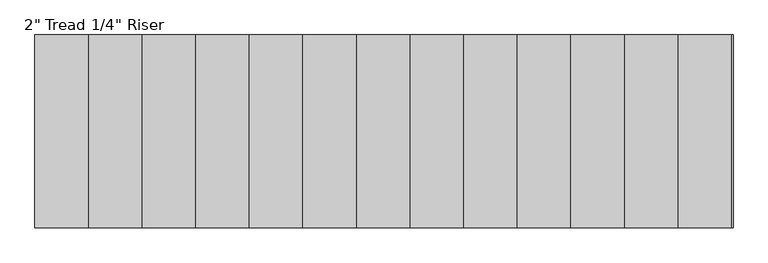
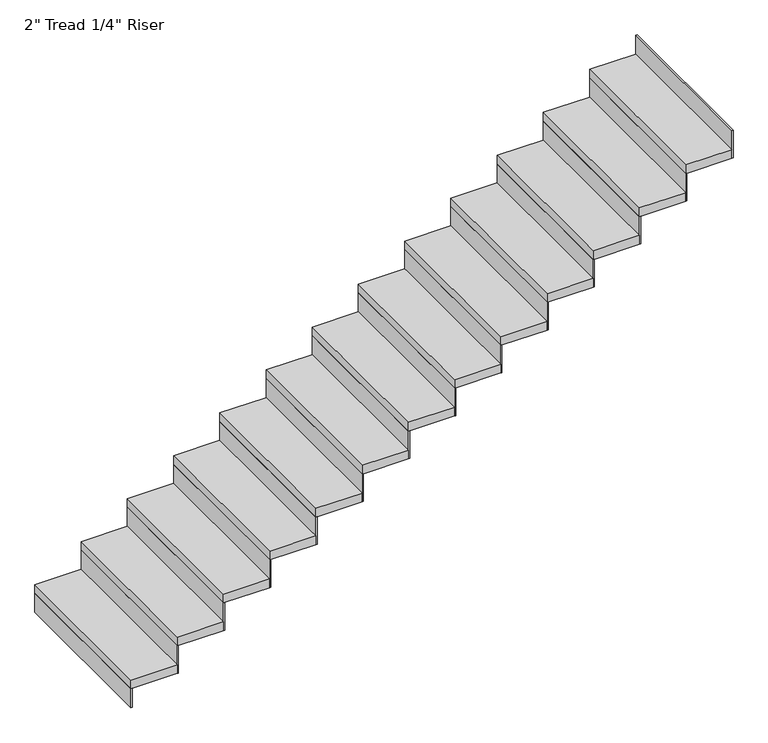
"""IFC4 building model written with IfcOpenShell, lengths in millimetres: stair flight geometry."""

import ifcopenshell
import ifcopenshell.guid

model = None  # the IFC model being written
_history = None  # IfcOwnerHistory: only IFC2X3 demands one
_inside = {}  # id of a spatial element -> (the spatial element, [elements in it])
_under = {}  # id of a project, library or spatial element -> (it, [spatial elements below it])
_declared = {}  # id of a project -> (the project, [libraries it declares])
_typed = {}  # id of a type object -> (the type object, [elements of that type])
_made_of = {}  # id of a material, layer set ... -> (it, [elements and type objects made of it])


def new_model(schema):
    """Start an empty IFC model of exactly this schema.

    Asked for "IFC4X3", IfcOpenShell would pick the latest addendum, in which some entities
    have other attributes; the version numbers below select the first issue.
    IFC2X3 requires an IfcOwnerHistory on every rooted entity: one is made here for all.
    """
    global model, _history
    if schema == "IFC4X3":
        model = ifcopenshell.file(schema_version=(4, 3, 0, 0))
    else:
        model = ifcopenshell.file(schema=schema)
    _inside.clear()
    _under.clear()
    _declared.clear()
    _typed.clear()
    _made_of.clear()
    _history = None
    if model.schema == "IFC2X3":
        org = make("IfcOrganization", Name="unknown")
        user = make(
            "IfcPersonAndOrganization",
            ThePerson=make("IfcPerson", FamilyName="unknown"),
            TheOrganization=org,
        )
        app = make(
            "IfcApplication",
            ApplicationDeveloper=org,
            Version="unknown",
            ApplicationFullName="unknown",
            ApplicationIdentifier="unknown",
        )
        _history = make(
            "IfcOwnerHistory",
            OwningUser=user,
            OwningApplication=app,
            ChangeAction="ADDED",
            CreationDate=0,
        )
    return model


def make(cls, **values):
    """One entity of the class cls with the attributes given. An attribute that is None is left unset."""
    return model.create_entity(
        cls, **{name: value for name, value in values.items() if value is not None}
    )


def rooted(cls, **values):
    """An entity with a GlobalId (a new one), such as an element, a storey or a relation."""
    return make(cls, GlobalId=ifcopenshell.guid.new(), OwnerHistory=_history, **values)


def si_unit(unit_type, name, prefix=None):
    """IfcSIUnit, for example si_unit("LENGTHUNIT", "METRE", prefix="MILLI")."""
    return make("IfcSIUnit", UnitType=unit_type, Prefix=prefix, Name=name)


def assignment(units):
    """IfcUnitAssignment: the units of a project."""
    return None if units is None else make("IfcUnitAssignment", Units=units)


def point(xyz):
    """IfcCartesianPoint."""
    return None if xyz is None else make("IfcCartesianPoint", Coordinates=xyz)


def direction(xyz):
    """IfcDirection."""
    return None if xyz is None else make("IfcDirection", DirectionRatios=xyz)


def frame(location, z_axis=None, x_axis=None):
    """IfcAxis2Placement3D, a coordinate frame: its origin and axes. An axis left out is left unset."""
    return make(
        "IfcAxis2Placement3D",
        Location=point(location),
        Axis=direction(z_axis),
        RefDirection=direction(x_axis),
    )


def origin():
    """The frame at (0, 0, 0) with its axes left unset."""
    return frame((0.0, 0.0, 0.0))


def origin_with_axes():
    """The frame at (0, 0, 0) with the z axis (0, 0, 1) and the x axis (1, 0, 0) written out."""
    return frame((0.0, 0.0, 0.0), z_axis=(0.0, 0.0, 1.0), x_axis=(1.0, 0.0, 0.0))


def place(relative_to, where):
    """IfcLocalPlacement: puts the frame where relative to a parent placement (None: the world)."""
    return make(
        "IfcLocalPlacement", PlacementRelTo=relative_to, RelativePlacement=where
    )


def context(
    kind, dimensions, precision=None, world=None, true_north=None, identifier=None
):
    """IfcGeometricRepresentationContext, for example the 3D "Model" context."""
    return make(
        "IfcGeometricRepresentationContext",
        ContextIdentifier=identifier,
        ContextType=kind,
        CoordinateSpaceDimension=dimensions,
        Precision=precision,
        WorldCoordinateSystem=world,
        TrueNorth=true_north,
    )


def project(units=None, contexts=None):
    """IfcProject with its units and contexts."""
    return rooted(
        "IfcProject",
        Name="project",
        RepresentationContexts=contexts,
        UnitsInContext=assignment(units),
    )


def spatial(cls, under=None, at=None, **own):
    """A site, building, storey or space (cls), placed at a placement, below another one or the project."""
    s = rooted(cls, ObjectPlacement=at, **own)
    if under is not None:
        _under.setdefault(under.id(), (under, []))[1].append(s)
    return s


def polyline(points):
    """IfcPolyline through the points."""
    return make("IfcPolyline", Points=[point(p) for p in points])


def outline(outer, holes=None, kind="AREA"):
    """IfcArbitraryClosedProfileDef: a profile drawn as a closed curve; with holes, ...WithVoids."""
    if holes is None:
        return make("IfcArbitraryClosedProfileDef", ProfileType=kind, OuterCurve=outer)
    return make(
        "IfcArbitraryProfileDefWithVoids",
        ProfileType=kind,
        OuterCurve=outer,
        InnerCurves=holes,
    )


def extrude(swept, where, along, depth):
    """IfcExtrudedAreaSolid: the profile swept, set in the frame where, extruded along a direction by depth."""
    return make(
        "IfcExtrudedAreaSolid",
        SweptArea=swept,
        Position=where,
        ExtrudedDirection=direction(along),
        Depth=depth,
    )


def shape(context_of_items, identifier, shape_type, items):
    """IfcShapeRepresentation: the items that make up one representation, for example the "Body"."""
    return make(
        "IfcShapeRepresentation",
        ContextOfItems=context_of_items,
        RepresentationIdentifier=identifier,
        RepresentationType=shape_type,
        Items=items,
    )


def source(mapping_origin, context_of_items, identifier, shape_type, items):
    """IfcRepresentationMap: a shape defined once, which mapped items show again and again."""
    return make(
        "IfcRepresentationMap",
        MappingOrigin=mapping_origin,
        MappedRepresentation=shape(context_of_items, identifier, shape_type, items),
    )


def transform(
    local_origin,
    x_axis=None,
    y_axis=None,
    z_axis=None,
    scale=None,
    scale2=None,
    scale3=None,
    uniform=True,
):
    """IfcCartesianTransformationOperator3D, or its non-uniform kind. x_axis, y_axis, z_axis: its Axis1, 2, 3."""
    if uniform:
        return make(
            "IfcCartesianTransformationOperator3D",
            Axis1=direction(x_axis),
            Axis2=direction(y_axis),
            LocalOrigin=point(local_origin),
            Scale=scale,
            Axis3=direction(z_axis),
        )
    return make(
        "IfcCartesianTransformationOperator3DnonUniform",
        Axis1=direction(x_axis),
        Axis2=direction(y_axis),
        LocalOrigin=point(local_origin),
        Scale=scale,
        Axis3=direction(z_axis),
        Scale2=scale2,
        Scale3=scale3,
    )


def mapped(mapping_source, mapping_target):
    """IfcMappedItem: shows the shape of a source again, moved by a transform."""
    return make(
        "IfcMappedItem", MappingSource=mapping_source, MappingTarget=mapping_target
    )


def made_of(thing, what):
    """Note that an element or type object is made of a material, layer set ...; save() writes the relation."""
    if what is not None:
        _made_of.setdefault(what.id(), (what, []))[1].append(thing)
    return thing


def element(
    cls,
    number,
    at=None,
    inside=None,
    cuts=None,
    type_object=None,
    material=None,
    context=None,
    identifier="Body",
    shape_type=None,
    held_by="IfcProductDefinitionShape",
    body=None,
    shapes=None,
    **own,
):
    """One element of the class cls, such as IfcWall. Its Tag is "e" and its number.

    at: its placement. inside: the storey or other place that contains it. cuts: it is an
    opening in that element (IfcRelVoidsElement). A single representation is given by context,
    identifier, shape_type and body (its items); several are given by shapes. held_by: the class
    of the entity that holds the representations. save() writes the other relations.
    """
    e = rooted(cls, Tag="e%d" % number, ObjectPlacement=at, **own)
    if body is not None:
        shapes = [shape(context, identifier, shape_type, body)]
    if shapes is not None:
        e.Representation = make(held_by, Representations=shapes)
    if inside is not None:
        _inside.setdefault(inside.id(), (inside, []))[1].append(e)
    if cuts is not None:
        rooted(
            "IfcRelVoidsElement", RelatingBuildingElement=cuts, RelatedOpeningElement=e
        )
    if type_object is not None:
        _typed.setdefault(type_object.id(), (type_object, []))[1].append(e)
    return made_of(e, material)


def aggregate(whole, parts):
    """IfcRelAggregates: a whole, such as a stair, and the parts it consists of."""
    return rooted("IfcRelAggregates", RelatingObject=whole, RelatedObjects=parts)


def save(model, path):
    """Write the relations noted so far, then the file.

    IfcRelAggregates (storeys below a building ...), IfcRelContainedInSpatialStructure (elements
    in a storey), IfcRelDefinesByType, IfcRelAssociatesMaterial and IfcRelDeclares: one each for
    every whole, place, type object, material and project.
    """
    for whole, parts in _under.values():
        aggregate(whole, parts)
    for where, things in _inside.values():
        rooted(
            "IfcRelContainedInSpatialStructure",
            RelatedElements=things,
            RelatingStructure=where,
        )
    for kind, things in _typed.values():
        rooted("IfcRelDefinesByType", RelatedObjects=things, RelatingType=kind)
    for what, things in _made_of.values():
        rooted("IfcRelAssociatesMaterial", RelatedObjects=things, RelatingMaterial=what)
    for by, libraries in _declared.values():
        rooted("IfcRelDeclares", RelatingContext=by, RelatedDefinitions=libraries)
    model.write(path)


def stair_flight_8c7c9975(model_context):
    return source(origin(), model_context, "Body", "SweptSolid", [
        extrude(outline(polyline([(135333.2884933, -35524.5173894), (135326.9384933, -35524.5173894), (135326.9384933, -34610.1173894), (135333.2884933, -34610.1173894), (135333.2884933, -35524.5173894)])), origin_with_axes(), (0.0, 0.0, 1.0), 109.6210526),
        extrude(outline(polyline([(135580.9384933, -34610.1173894), (135580.9384933, -35524.5173894), (135326.9384933, -35524.5173894), (135326.9384933, -34610.1173894), (135580.9384933, -34610.1173894)])), frame((0.0, 0.0, 109.6210526), z_axis=(0.0, 0.0, 1.0), x_axis=(1.0, 0.0, 0.0)), (0.0, 0.0, 1.0), 50.8),
        extrude(outline(polyline([(135587.2884933, -35524.5173894), (135580.9384933, -35524.5173894), (135580.9384933, -34610.1173894), (135587.2884933, -34610.1173894), (135587.2884933, -35524.5173894)])), frame((0.0, 0.0, 109.6210526), z_axis=(0.0, 0.0, 1.0), x_axis=(1.0, 0.0, 0.0)), (0.0, 0.0, 1.0), 160.4210526),
        extrude(outline(polyline([(135834.9384933, -34610.1173894), (135834.9384933, -35524.5173894), (135580.9384933, -35524.5173894), (135580.9384933, -34610.1173894), (135834.9384933, -34610.1173894)])), frame((0.0, 0.0, 270.0421053), z_axis=(0.0, 0.0, 1.0), x_axis=(1.0, 0.0, 0.0)), (0.0, 0.0, 1.0), 50.8),
        extrude(outline(polyline([(135841.2884933, -35524.5173894), (135834.9384933, -35524.5173894), (135834.9384933, -34610.1173894), (135841.2884933, -34610.1173894), (135841.2884933, -35524.5173894)])), frame((0.0, 0.0, 270.0421053), z_axis=(0.0, 0.0, 1.0), x_axis=(1.0, 0.0, 0.0)), (0.0, 0.0, 1.0), 160.4210526),
        extrude(outline(polyline([(136088.9384933, -34610.1173894), (136088.9384933, -35524.5173894), (135834.9384933, -35524.5173894), (135834.9384933, -34610.1173894), (136088.9384933, -34610.1173894)])), frame((0.0, 0.0, 430.4631579), z_axis=(0.0, 0.0, 1.0), x_axis=(1.0, 0.0, 0.0)), (0.0, 0.0, 1.0), 50.8),
        extrude(outline(polyline([(136095.2884933, -35524.5173894), (136088.9384933, -35524.5173894), (136088.9384933, -34610.1173894), (136095.2884933, -34610.1173894), (136095.2884933, -35524.5173894)])), frame((0.0, 0.0, 430.4631579), z_axis=(0.0, 0.0, 1.0), x_axis=(1.0, 0.0, 0.0)), (0.0, 0.0, 1.0), 160.4210526),
        extrude(outline(polyline([(136342.9384933, -34610.1173894), (136342.9384933, -35524.5173894), (136088.9384933, -35524.5173894), (136088.9384933, -34610.1173894), (136342.9384933, -34610.1173894)])), frame((0.0, 0.0, 590.8842105), z_axis=(0.0, 0.0, 1.0), x_axis=(1.0, 0.0, 0.0)), (0.0, 0.0, 1.0), 50.8),
        extrude(outline(polyline([(136349.2884933, -35524.5173894), (136342.9384933, -35524.5173894), (136342.9384933, -34610.1173894), (136349.2884933, -34610.1173894), (136349.2884933, -35524.5173894)])), frame((0.0, 0.0, 590.8842105), z_axis=(0.0, 0.0, 1.0), x_axis=(1.0, 0.0, 0.0)), (0.0, 0.0, 1.0), 160.4210526),
        extrude(outline(polyline([(136596.9384933, -34610.1173894), (136596.9384933, -35524.5173894), (136342.9384933, -35524.5173894), (136342.9384933, -34610.1173894), (136596.9384933, -34610.1173894)])), frame((0.0, 0.0, 751.3052632), z_axis=(0.0, 0.0, 1.0), x_axis=(1.0, 0.0, 0.0)), (0.0, 0.0, 1.0), 50.8),
        extrude(outline(polyline([(136603.2884933, -35524.5173894), (136596.9384933, -35524.5173894), (136596.9384933, -34610.1173894), (136603.2884933, -34610.1173894), (136603.2884933, -35524.5173894)])), frame((0.0, 0.0, 751.3052632), z_axis=(0.0, 0.0, 1.0), x_axis=(1.0, 0.0, 0.0)), (0.0, 0.0, 1.0), 160.4210526),
        extrude(outline(polyline([(136850.9384933, -34610.1173894), (136850.9384933, -35524.5173894), (136596.9384933, -35524.5173894), (136596.9384933, -34610.1173894), (136850.9384933, -34610.1173894)])), frame((0.0, 0.0, 911.7263158), z_axis=(0.0, 0.0, 1.0), x_axis=(1.0, 0.0, 0.0)), (0.0, 0.0, 1.0), 50.8),
        extrude(outline(polyline([(136857.2884933, -35524.5173894), (136850.9384933, -35524.5173894), (136850.9384933, -34610.1173894), (136857.2884933, -34610.1173894), (136857.2884933, -35524.5173894)])), frame((0.0, 0.0, 911.7263158), z_axis=(0.0, 0.0, 1.0), x_axis=(1.0, 0.0, 0.0)), (0.0, 0.0, 1.0), 160.4210526),
        extrude(outline(polyline([(137104.9384933, -34610.1173894), (137104.9384933, -35524.5173894), (136850.9384933, -35524.5173894), (136850.9384933, -34610.1173894), (137104.9384933, -34610.1173894)])), frame((0.0, 0.0, 1072.1473684), z_axis=(0.0, 0.0, 1.0), x_axis=(1.0, 0.0, 0.0)), (0.0, 0.0, 1.0), 50.8),
        extrude(outline(polyline([(137111.2884933, -35524.5173894), (137104.9384933, -35524.5173894), (137104.9384933, -34610.1173894), (137111.2884933, -34610.1173894), (137111.2884933, -35524.5173894)])), frame((0.0, 0.0, 1072.1473684), z_axis=(0.0, 0.0, 1.0), x_axis=(1.0, 0.0, 0.0)), (0.0, 0.0, 1.0), 160.4210526),
        extrude(outline(polyline([(137358.9384933, -34610.1173894), (137358.9384933, -35524.5173894), (137104.9384933, -35524.5173894), (137104.9384933, -34610.1173894), (137358.9384933, -34610.1173894)])), frame((0.0, 0.0, 1232.5684211), z_axis=(0.0, 0.0, 1.0), x_axis=(1.0, 0.0, 0.0)), (0.0, 0.0, 1.0), 50.8),
        extrude(outline(polyline([(137365.2884933, -35524.5173894), (137358.9384933, -35524.5173894), (137358.9384933, -34610.1173894), (137365.2884933, -34610.1173894), (137365.2884933, -35524.5173894)])), frame((0.0, 0.0, 1232.5684211), z_axis=(0.0, 0.0, 1.0), x_axis=(1.0, 0.0, 0.0)), (0.0, 0.0, 1.0), 160.4210526),
        extrude(outline(polyline([(137612.9384933, -34610.1173894), (137612.9384933, -35524.5173894), (137358.9384933, -35524.5173894), (137358.9384933, -34610.1173894), (137612.9384933, -34610.1173894)])), frame((0.0, 0.0, 1392.9894737), z_axis=(0.0, 0.0, 1.0), x_axis=(1.0, 0.0, 0.0)), (0.0, 0.0, 1.0), 50.8),
        extrude(outline(polyline([(137619.2884933, -35524.5173894), (137612.9384933, -35524.5173894), (137612.9384933, -34610.1173894), (137619.2884933, -34610.1173894), (137619.2884933, -35524.5173894)])), frame((0.0, 0.0, 1392.9894737), z_axis=(0.0, 0.0, 1.0), x_axis=(1.0, 0.0, 0.0)), (0.0, 0.0, 1.0), 160.4210526),
        extrude(outline(polyline([(137866.9384933, -34610.1173894), (137866.9384933, -35524.5173894), (137612.9384933, -35524.5173894), (137612.9384933, -34610.1173894), (137866.9384933, -34610.1173894)])), frame((0.0, 0.0, 1553.4105263), z_axis=(0.0, 0.0, 1.0), x_axis=(1.0, 0.0, 0.0)), (0.0, 0.0, 1.0), 50.8),
        extrude(outline(polyline([(137873.2884933, -35524.5173894), (137866.9384933, -35524.5173894), (137866.9384933, -34610.1173894), (137873.2884933, -34610.1173894), (137873.2884933, -35524.5173894)])), frame((0.0, 0.0, 1553.4105263), z_axis=(0.0, 0.0, 1.0), x_axis=(1.0, 0.0, 0.0)), (0.0, 0.0, 1.0), 160.4210526),
        extrude(outline(polyline([(138120.9384933, -34610.1173894), (138120.9384933, -35524.5173894), (137866.9384933, -35524.5173894), (137866.9384933, -34610.1173894), (138120.9384933, -34610.1173894)])), frame((0.0, 0.0, 1713.8315789), z_axis=(0.0, 0.0, 1.0), x_axis=(1.0, 0.0, 0.0)), (0.0, 0.0, 1.0), 50.8),
        extrude(outline(polyline([(138127.2884933, -35524.5173894), (138120.9384933, -35524.5173894), (138120.9384933, -34610.1173894), (138127.2884933, -34610.1173894), (138127.2884933, -35524.5173894)])), frame((0.0, 0.0, 1713.8315789), z_axis=(0.0, 0.0, 1.0), x_axis=(1.0, 0.0, 0.0)), (0.0, 0.0, 1.0), 160.4210526),
        extrude(outline(polyline([(138374.9384933, -34610.1173894), (138374.9384933, -35524.5173894), (138120.9384933, -35524.5173894), (138120.9384933, -34610.1173894), (138374.9384933, -34610.1173894)])), frame((0.0, 0.0, 1874.2526316), z_axis=(0.0, 0.0, 1.0), x_axis=(1.0, 0.0, 0.0)), (0.0, 0.0, 1.0), 50.8),
        extrude(outline(polyline([(138381.2884933, -35524.5173894), (138374.9384933, -35524.5173894), (138374.9384933, -34610.1173894), (138381.2884933, -34610.1173894), (138381.2884933, -35524.5173894)])), frame((0.0, 0.0, 1874.2526316), z_axis=(0.0, 0.0, 1.0), x_axis=(1.0, 0.0, 0.0)), (0.0, 0.0, 1.0), 160.4210526),
        extrude(outline(polyline([(138635.2884933, -35524.5173894), (138628.9384933, -35524.5173894), (138628.9384933, -34610.1173894), (138635.2884933, -34610.1173894), (138635.2884933, -35524.5173894)])), frame((0.0, 0.0, 2034.6736842), z_axis=(0.0, 0.0, 1.0), x_axis=(1.0, 0.0, 0.0)), (0.0, 0.0, 1.0), 160.4210526),
        extrude(outline(polyline([(138628.9384933, -34610.1173894), (138628.9384933, -35524.5173894), (138374.9384933, -35524.5173894), (138374.9384933, -34610.1173894), (138628.9384933, -34610.1173894)])), frame((0.0, 0.0, 2034.6736842), z_axis=(0.0, 0.0, 1.0), x_axis=(1.0, 0.0, 0.0)), (0.0, 0.0, 1.0), 50.8),
    ])


if __name__ == "__main__":
    model = new_model("IFC4")
    model_context = context("Model", 3, world=origin())
    ifc_project = project(units=[si_unit("LENGTHUNIT", "METRE", prefix="MILLI")], contexts=[model_context])
    site = spatial("IfcSite", under=ifc_project)
    building = spatial("IfcBuilding", under=site)
    placement = place(None, origin())
    stair_flight_shape = stair_flight_8c7c9975(model_context)
    element("IfcStairFlight", 1, ObjectType="2\" Tread 1/4\" Riser", at=placement, inside=building, context=model_context, shape_type="MappedRepresentation", body=[
        mapped(stair_flight_shape, transform((0.0, 0.0, 0.0), x_axis=(1.0, 0.0, 0.0), y_axis=(0.0, 1.0, 0.0), z_axis=(0.0, 0.0, 1.0))),
    ])
    save(model, "model.ifc")
